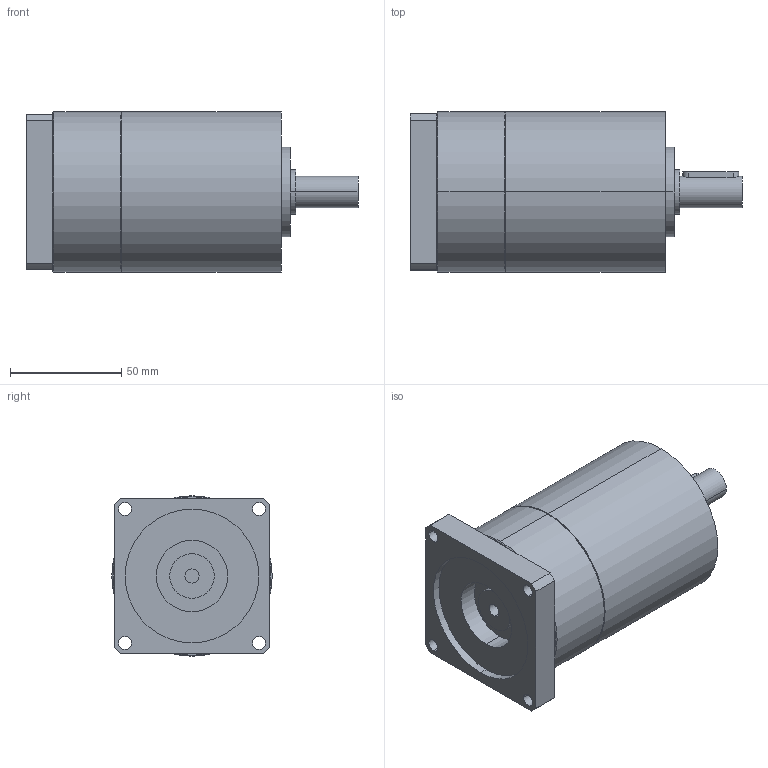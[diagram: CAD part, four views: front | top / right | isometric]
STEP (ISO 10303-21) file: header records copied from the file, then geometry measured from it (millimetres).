
FILE_DESCRIPTION(('CoCreate Modeling STEP Export'),'2;1');
FILE_NAME('GPT75_ig-9-12-16-20-25-28-35-40-50-70-100_14_B14T_6.35_P30.stp','2014-08-27T13:19:38',(''),(''),'CoCreate Modeling STEP processor for AP214 (Solid Model)','CoCreate Modeling 16.00C 25-Feb-2009 (C) Parametric Technology GmbH','');
FILE_SCHEMA(('AUTOMOTIVE_DESIGN { 1 0 10303 214 1 1 1 1 }'));
Length unit declared in the file: millimetre
Products named in the file (2): GPT75_ig-9-12-16-20-25-28-35-40-50-70-100_14_B14T_6.35_P30
Assembly tree (1 placements, depth 2):
  GPT75_ig-9-12-16-20-25-28-35-40-50-70-100_14_B14T_6.35_P30
    GPT75_ig-9-12-16-20-25-28-35-40-50-70-100_14_B14T_6.35_P30
Bounding box: 149 x 72 x 72 mm (x, y, z)
Volume: 467322.3 mm3; surface area: 42454 mm2
Topology: 1 solids, 1 shells, 76 faces, 182 edges, 121 vertices
Faces by surface type: cylinder 42, plane 30, cone 4
Entity records: 2265 total; most frequent: CARTESIAN_POINT 677, ORIENTED_EDGE 364, DIRECTION 268, EDGE_CURVE 182, VERTEX_POINT 121, AXIS2_PLACEMENT_3D 100, EDGE_LOOP 97, FACE_OUTER_BOUND 76
